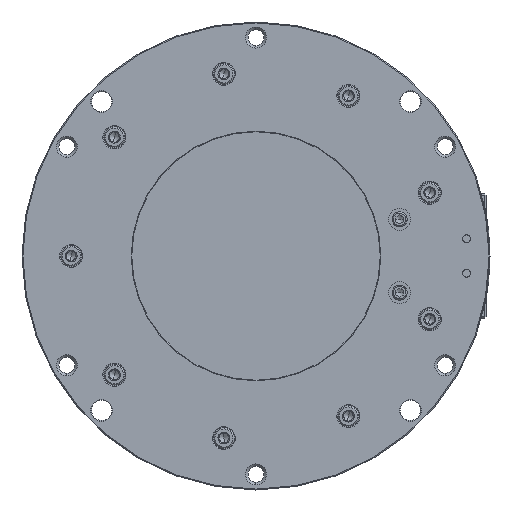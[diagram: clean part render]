
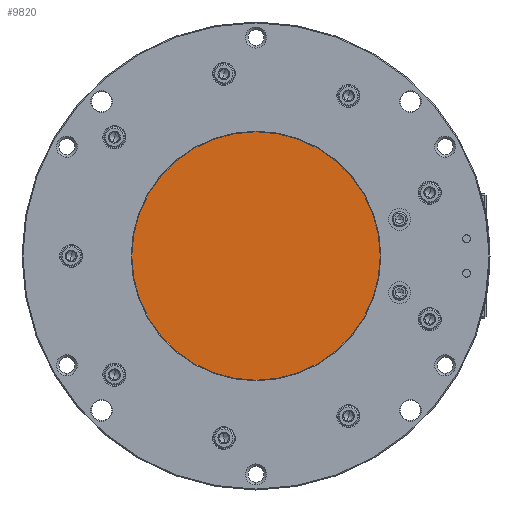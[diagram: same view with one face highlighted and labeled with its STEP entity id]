
A CAD part, left-side view. The second image highlights one B-rep face of the part: STEP entity #9820.
In plain terms, the highlighted planar face has unit normal (-1, 0, 0).
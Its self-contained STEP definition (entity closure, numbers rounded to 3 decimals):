
#1264 = FACE_OUTER_BOUND ( 'NONE', #43240, .T. ) ;
#1892 = CARTESIAN_POINT ( 'NONE',  ( -58.3, 0., 79.616 ) ) ;
#2193 = CARTESIAN_POINT ( 'NONE',  ( -58.3, 0., 0. ) ) ;
#3380 = DIRECTION ( 'NONE',  ( -1., 0., 0. ) ) ;
#3398 = ORIENTED_EDGE ( 'NONE', *, *, #33580, .T. ) ;
#9109 = AXIS2_PLACEMENT_3D ( 'NONE', #41646, #34600, #37716 ) ;
#9572 = CARTESIAN_POINT ( 'NONE',  ( -58.3, 0., 0. ) ) ;
#9820 = ADVANCED_FACE ( 'NONE', ( #1264 ), #24456, .F. ) ;
#10402 = EDGE_CURVE ( 'NONE', #35768, #18124, #15497, .T. ) ;
#15497 = CIRCLE ( 'NONE', #30311, 79.616 ) ;
#15972 = CARTESIAN_POINT ( 'NONE',  ( -58.3, 0., -79.616 ) ) ;
#18124 = VERTEX_POINT ( 'NONE', #15972 ) ;
#20433 = ORIENTED_EDGE ( 'NONE', *, *, #10402, .T. ) ;
#24456 = PLANE ( 'NONE',  #9109 ) ;
#30311 = AXIS2_PLACEMENT_3D ( 'NONE', #9572, #3380, #33425 ) ;
#32604 = AXIS2_PLACEMENT_3D ( 'NONE', #2193, #41924, #41707 ) ;
#33425 = DIRECTION ( 'NONE',  ( 0., 0., 1. ) ) ;
#33580 = EDGE_CURVE ( 'NONE', #18124, #35768, #36825, .T. ) ;
#34600 = DIRECTION ( 'NONE',  ( 1., 0., 0. ) ) ;
#35768 = VERTEX_POINT ( 'NONE', #1892 ) ;
#36825 = CIRCLE ( 'NONE', #32604, 79.616 ) ;
#37716 = DIRECTION ( 'NONE',  ( 0., 0., -1. ) ) ;
#41646 = CARTESIAN_POINT ( 'NONE',  ( -58.3, 79.616, 0. ) ) ;
#41707 = DIRECTION ( 'NONE',  ( 0., 0., 1. ) ) ;
#41924 = DIRECTION ( 'NONE',  ( -1., 0., 0. ) ) ;
#43240 = EDGE_LOOP ( 'NONE', ( #20433, #3398 ) ) ;
